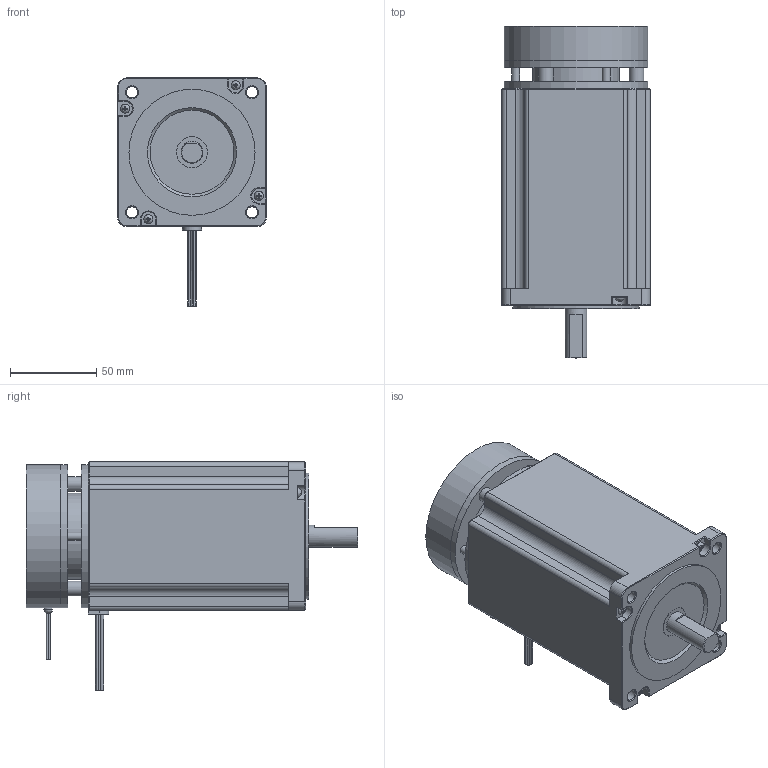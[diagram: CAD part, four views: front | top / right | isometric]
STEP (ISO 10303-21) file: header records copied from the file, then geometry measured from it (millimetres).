
FILE_DESCRIPTION(/* description */ (''),/* implementation_level */ '2;1');
FILE_NAME(/* name */ 'JK86HS126-2048-01FBK.stp',/* time_stamp */ '2020-12-16T08:40:20+08:00',/* author */ (''),/* organization */ (''),/* preprocessor_version */ 'ST-DEVELOPER v15',/* originating_system */ 'SIEMENS PLM Software NX 10.0',/* authorisation */ '');
FILE_SCHEMA (('AUTOMOTIVE_DESIGN { 1 0 10303 214 3 1 1 1 }'));
Length unit declared in the file: millimetre
Products named in the file (1): JK86HS126-2048-01FBK
Bounding box: 86 x 192.1 x 132 mm (x, y, z)
Volume: 1015770 mm3; surface area: 115421.5 mm2
Topology: 16 solids, 20 shells, 455 faces, 1080 edges, 685 vertices
Faces by surface type: plane 326, cylinder 95, cone 29, bspline 5
Full cylindrical faces by diameter (mm): 1 x2, 1.103 x8, 2.338 x1, 3.3 x8, 4.6 x3, 4.86 x1, 5.249 x4, 5.5 x3, 6 x1, 6.5 x4, 8.5 x3, 12.7 x2, 15 x1, 17 x1, 18 x1, 31 x1, 50 x1, 73 x1, 83 x3
Entity records: 13228 total; most frequent: CARTESIAN_POINT 2968, DIRECTION 2103, ORIENTED_EDGE 1968, EDGE_CURVE 984, AXIS2_PLACEMENT_3D 726, VERTEX_POINT 653, LINE 651, VECTOR 651
